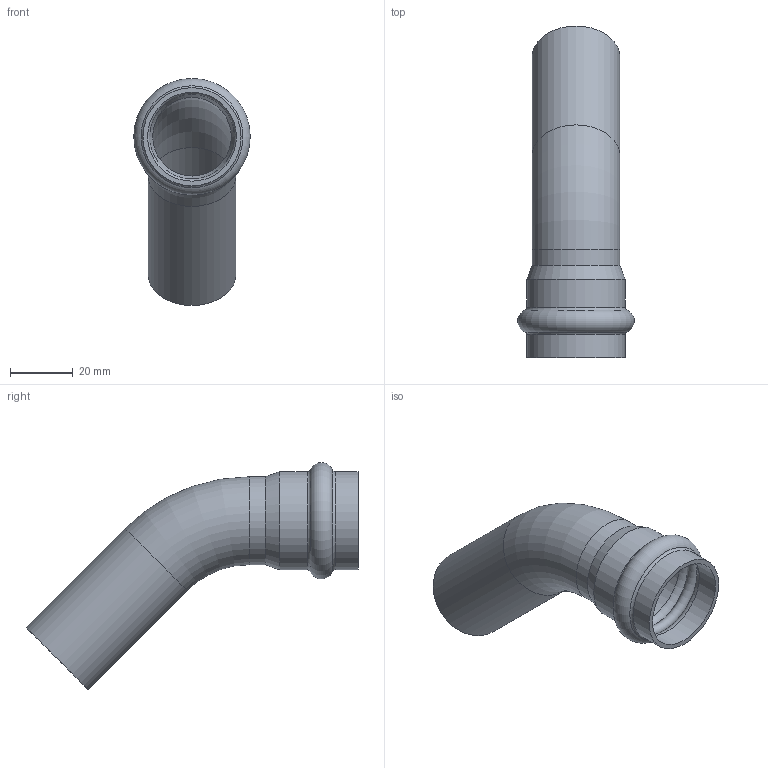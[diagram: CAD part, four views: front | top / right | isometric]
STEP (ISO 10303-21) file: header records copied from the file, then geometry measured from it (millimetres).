
FILE_DESCRIPTION(('STEP AP203'), '1');
FILE_NAME('覆.302661.012.000 捘 - VTi.958.I.002828', '', ('UNSPECIFIED'), ('UNSPECIFIED'), 'C3D Converter', 'C3D Toolkit', '');
FILE_SCHEMA(('CONFIG_CONTROL_DESIGN'));
Length unit declared in the file: millimetre
Products named in the file (1): ВР.302661.012.000 СБ
Bounding box: 37.1 x 105.74 x 72.29 mm (x, y, z)
Volume: 15685.6 mm3; surface area: 20840.6 mm2
Topology: 1 solids, 1 shells, 21 faces, 44 edges, 25 vertices
Faces by surface type: torus 9, cylinder 8, plane 2, cone 2
Full cylindrical faces by diameter (mm): 25.04 x2, 28 x2, 28.3 x2, 31.26 x2
Entity records: 508 total; most frequent: DIRECTION 94, CARTESIAN_POINT 72, ORIENTED_EDGE 50, AXIS2_PLACEMENT_3D 47, EDGE_LOOP 42, FACE_OUTER_BOUND 30, EDGE_CURVE 25, VERTEX_POINT 25
